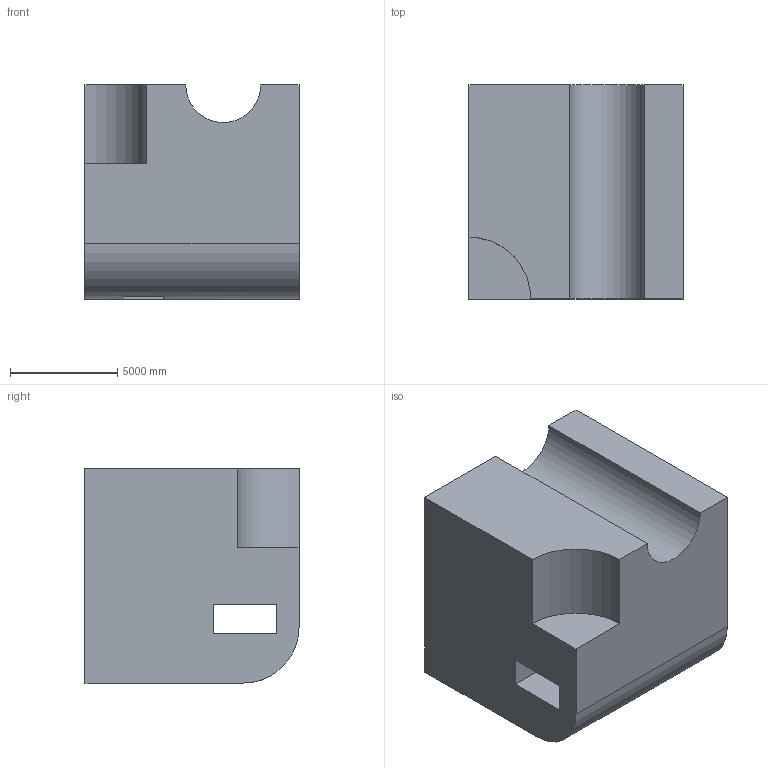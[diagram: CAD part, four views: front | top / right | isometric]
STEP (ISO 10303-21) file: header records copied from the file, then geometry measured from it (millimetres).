
FILE_DESCRIPTION (( 'STEP AP203' ), '1' );
FILE_NAME ('283.STEP', '2022-09-07T12:36:38', ( 'user' ), ( '' ), 'SwSTEP 2.0', 'SolidWorks 2021', '' );
FILE_SCHEMA (( 'CONFIG_CONTROL_DESIGN' ));
Length unit declared in the file: centimetre
Products named in the file (1): 283
Bounding box: 10000 x 10000 x 10000 mm (x, y, z)
Volume: 862775857747.5 mm3; surface area: 680962534.6 mm2
Topology: 1 solids, 1 shells, 20 faces, 60 edges, 40 vertices
Faces by surface type: plane 17, cylinder 3
Entity records: 757 total; most frequent: CARTESIAN_POINT 121, ORIENTED_EDGE 120, DIRECTION 110, EDGE_CURVE 60, VECTOR 52, LINE 52, VERTEX_POINT 40, AXIS2_PLACEMENT_3D 29
